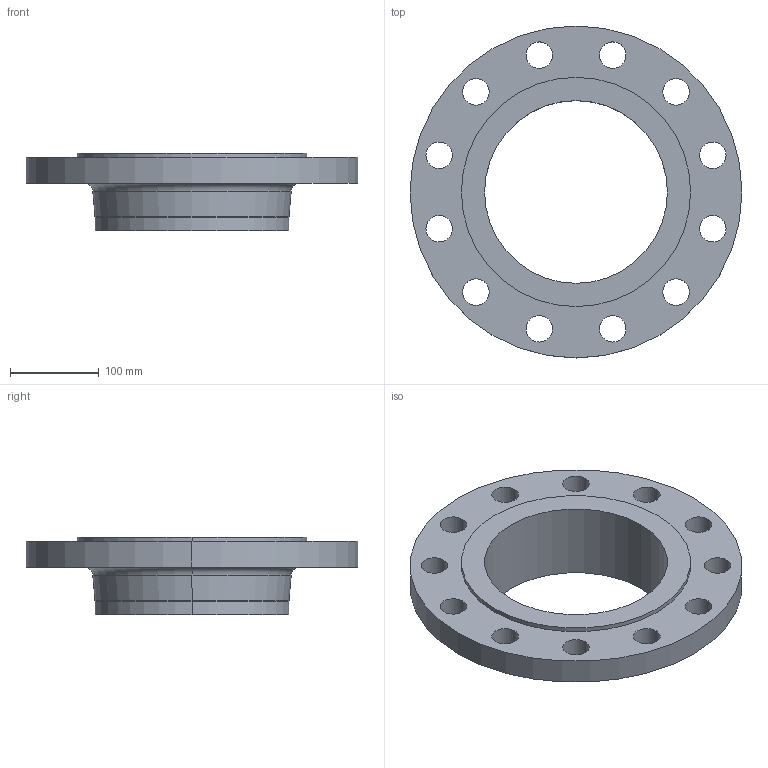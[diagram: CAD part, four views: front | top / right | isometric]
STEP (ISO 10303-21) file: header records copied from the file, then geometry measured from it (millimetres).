
FILE_DESCRIPTION (( 'STEP AP214' ), '1' );
FILE_NAME ('PN40 DN200 Type 11 - Type E Face.STEP', '2019-01-05T02:18:34', ( '' ), ( '' ), 'SwSTEP 2.0', 'SolidWorks 2019', '' );
FILE_SCHEMA (( 'AUTOMOTIVE_DESIGN' ));
Length unit declared in the file: millimetre
Products named in the file (1): PN40 DN200 Type 11 - Type E Face
Bounding box: 375 x 375 x 88 mm (x, y, z)
Volume: 2365364 mm3; surface area: 297996.8 mm2
Topology: 1 solids, 1 shells, 42 faces, 108 edges, 70 vertices
Faces by surface type: cylinder 32, torus 4, plane 4, cone 2
Entity records: 1404 total; most frequent: DIRECTION 268, CARTESIAN_POINT 221, ORIENTED_EDGE 216, AXIS2_PLACEMENT_3D 117, EDGE_CURVE 108, CIRCLE 74, VERTEX_POINT 70, EDGE_LOOP 70
